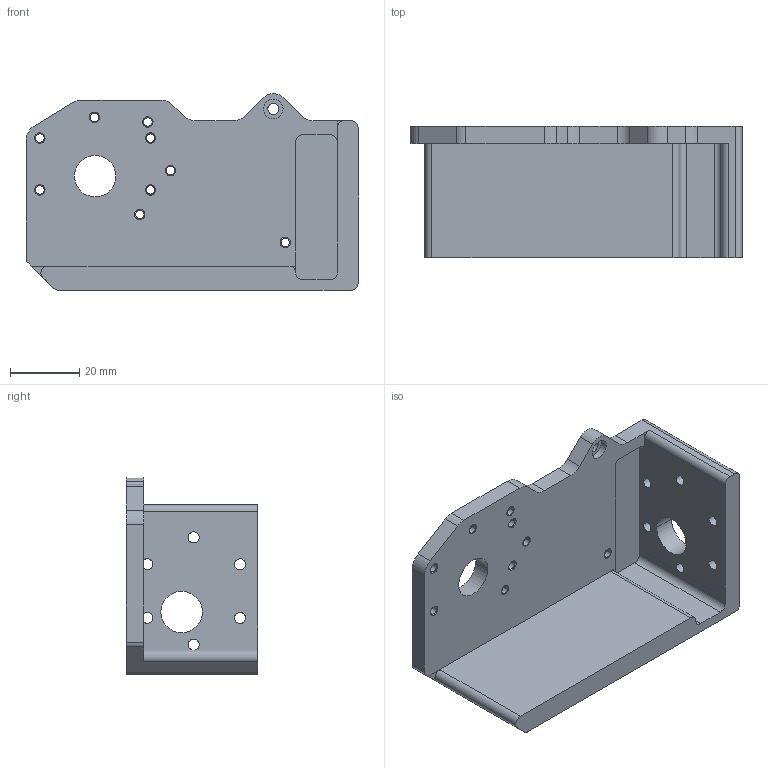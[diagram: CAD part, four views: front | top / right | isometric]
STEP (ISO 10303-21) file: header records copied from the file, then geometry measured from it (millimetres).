
FILE_DESCRIPTION(/* description */ ('(C) Elphel, Inc. 2012. Licensed under CERN OHL v.1.1 or later, see http://ohwr.org/cernohl'),/* implementation_level */ '2;1');
FILE_NAME(/* name */ '0353-22-37',/* time_stamp */ '2012-04-09T10:31:59-06:00',/* author */ (''),/* organization */ ('Elphel, Inc'),/* preprocessor_version */ 'ST-DEVELOPER v12',/* originating_system */ 'VariCAD 2012-1.04; kernel version (20100102)',/* authorisation */ '');
FILE_SCHEMA (('AUTOMOTIVE_DESIGN'));
Length unit declared in the file: millimetre
Products named in the file (1): Part
Bounding box: 96 x 38 x 56.83 mm (x, y, z)
Volume: 49459 mm3; surface area: 22201.6 mm2
Topology: 10 solids, 10 shells, 144 faces, 365 edges, 230 vertices
Faces by surface type: cylinder 92, plane 34, cone 18
Entity records: 5622 total; most frequent: DIRECTION 865, CARTESIAN_POINT 750, ORIENTED_EDGE 730, EDGE_CURVE 365, AXIS2_PLACEMENT_3D 345, VERTEX_POINT 230, CIRCLE 190, EDGE_LOOP 187
